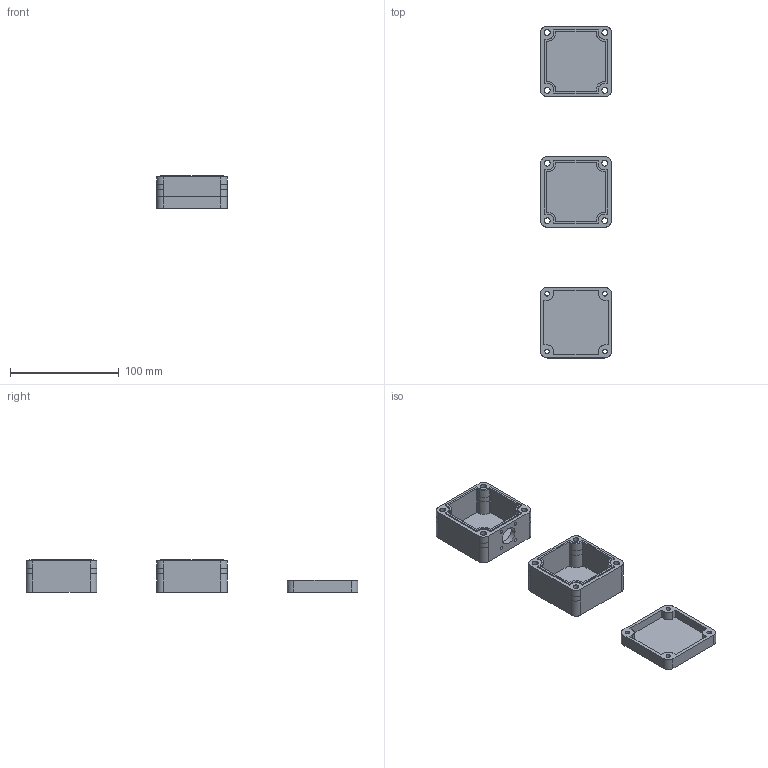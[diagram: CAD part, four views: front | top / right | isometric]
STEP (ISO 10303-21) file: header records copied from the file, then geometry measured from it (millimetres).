
FILE_DESCRIPTION(/* description */ (''),/* implementation_level */ '2;1');
FILE_NAME(/* name */ 'UtilityBox_65x65mm',/* time_stamp */ '2024-04-28T20:06:28+02:00',/* author */ (''),/* organization */ (''),/* preprocessor_version */ 'ST-DEVELOPER v16.5',/* originating_system */ '',/* authorisation */ '');
FILE_SCHEMA (('CONFIG_CONTROL_DESIGN'));
Length unit declared in the file: millimetre
Products named in the file (1): Document
Bounding box: 65 x 305 x 30 mm (x, y, z)
Volume: 113251.8 mm3; surface area: 60088.2 mm2
Topology: 3 solids, 3 shells, 249 faces, 654 edges, 420 vertices
Faces by surface type: cylinder 162, plane 87
Entity records: 6809 total; most frequent: CARTESIAN_POINT 2511, ORIENTED_EDGE 1308, EDGE_CURVE 654, VERTEX_POINT 420, B_SPLINE_CURVE_WITH_KNOTS 312, EDGE_LOOP 292, ADVANCED_FACE 249, FACE_OUTER_BOUND 249
